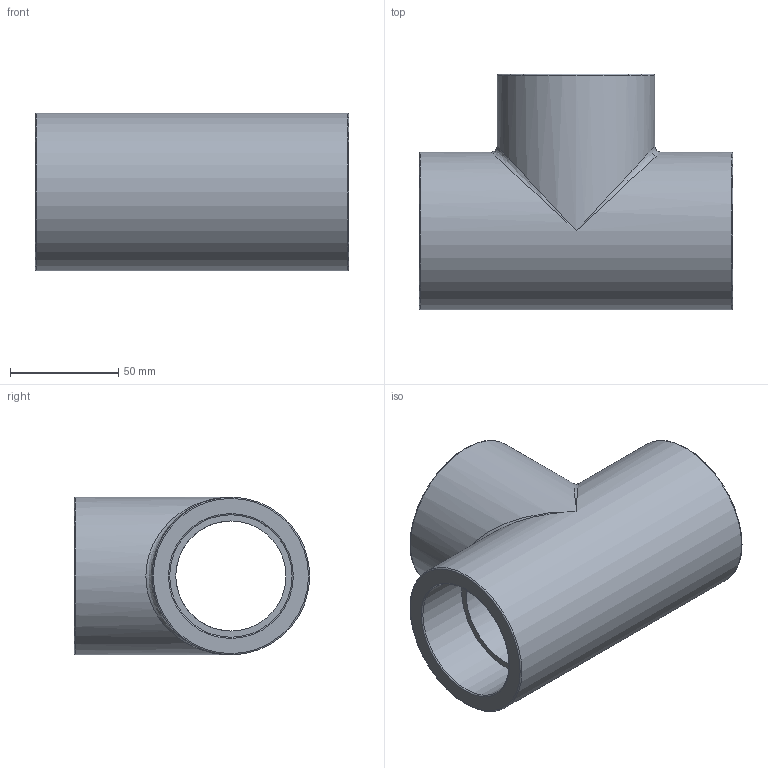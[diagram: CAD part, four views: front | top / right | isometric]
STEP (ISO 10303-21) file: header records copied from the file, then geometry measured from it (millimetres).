
FILE_DESCRIPTION(/* description */ ('PLASSON THREADED TEE PVC 2"'),/* implementation_level */ '2;1');
FILE_NAME(/* name */ 'C:\Dropbox\KIMPROJECTS-Inventor\99-16-3568-Processing\PVC Catalog 2017\050401\050401020.ipt.stp',/* time_stamp */ '2017-12-07T15:55:00+02:00',/* author */ ('KIM'),/* organization */ (''),/* preprocessor_version */ 'ST-DEVELOPER v15.6',/* originating_system */ 'Autodesk Inventor 2015',/* authorisation */ '');
FILE_SCHEMA (('AUTOMOTIVE_DESIGN { 1 0 10303 214 3 1 1 }'));
Length unit declared in the file: millimetre
Products named in the file (1): 050401020
Bounding box: 145 x 109 x 73 mm (x, y, z)
Volume: 343418.3 mm3; surface area: 76321.6 mm2
Topology: 1 solids, 1 shells, 20 faces, 46 edges, 26 vertices
Faces by surface type: cylinder 7, plane 6, torus 5, bspline 2
Full cylindrical faces by diameter (mm): 50.99 x2, 56.656 x3, 73 x2
Entity records: 570 total; most frequent: CARTESIAN_POINT 183, DIRECTION 84, ORIENTED_EDGE 46, AXIS2_PLACEMENT_3D 42, EDGE_LOOP 40, EDGE_CURVE 23, VERTEX_POINT 21, FACE_BOUND 20
